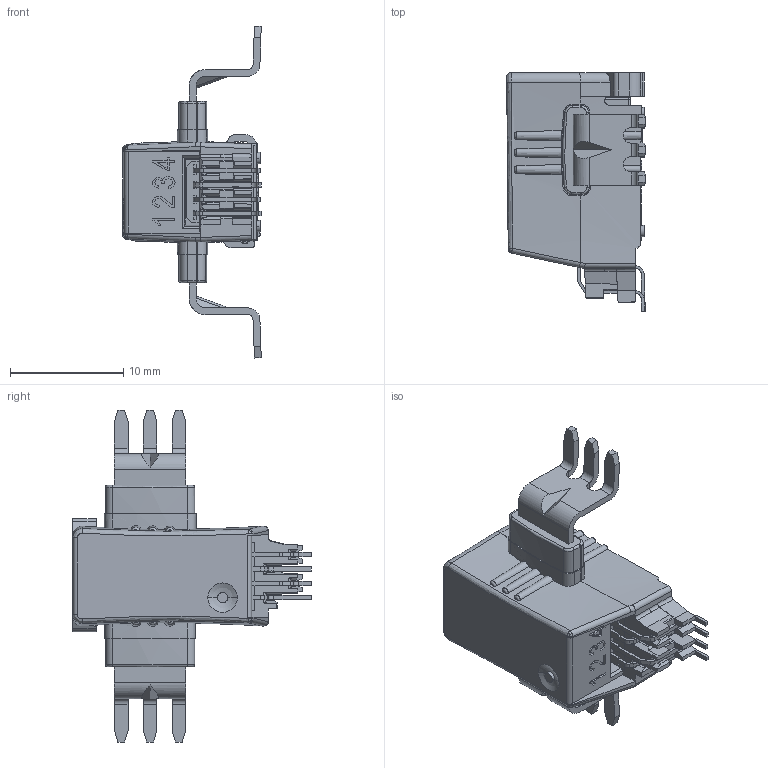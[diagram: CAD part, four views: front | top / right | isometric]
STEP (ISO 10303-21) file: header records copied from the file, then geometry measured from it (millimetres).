
FILE_DESCRIPTION(('Creo Elements/Direct Modeling STEP Export'),'2;1');
FILE_NAME('HLSR_xx_SM.stp','2013-08-21T10:27:43',(''),(''),'Creo Elements/Direct Modeling STEP processor for AP214 (Solid Model)','Creo Elements/Direct Modeling 17.0E 05-Feb-2012 (C) Parametric Technology GmbH','');
FILE_SCHEMA(('AUTOMOTIVE_DESIGN { 1 0 10303 214 1 1 1 1 }'));
Products named in the file (1): blackbox_180113.1
Bounding box: 12.22 x 21.02 x 29.26 mm (x, y, z)
Volume: 1451.1 mm3; surface area: 2847 mm2
Topology: 1 solids, 3 shells, 1367 faces, 3788 edges, 2470 vertices
Faces by surface type: plane 991, cylinder 286, bspline 38, cone 23, torus 22, sphere 6, extrusion 1
Entity records: 60256 total; most frequent: CARTESIAN_POINT 15025, ORIENTED_EDGE 7578, DIRECTION 6550, EDGE_CURVE 3783, VECTOR 2992, LINE 2991, VERTEX_POINT 2470, AXIS2_PLACEMENT_3D 1779
